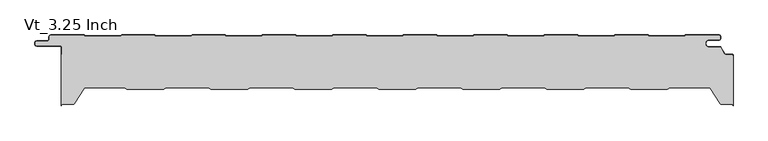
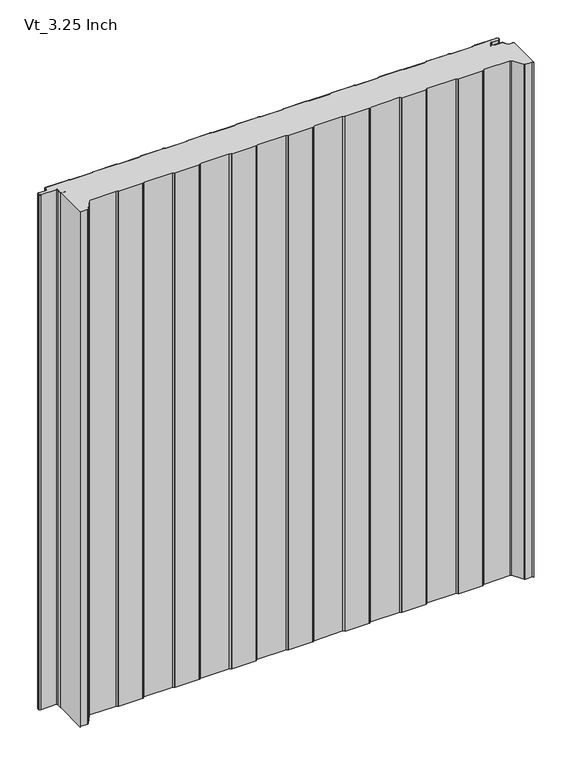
"""IFC4 building model written with IfcOpenShell, lengths in millimetres: plate geometry, KIP_R19_CP_KingSeam_Vt_Roof Panel : Vt_3.25 Inch."""

from ifc_helpers import new_model, si_unit, point, frame_2d, origin, origin_with_axes, place, context, project, spatial, polyline, circle_curve, trimmed, segment, composite_curve, outline, extrude, source, transform, mapped, element, save


def vt_3_25_inch_1afd26a9(model_context):
    return source(origin(), model_context, "Body", "SweptSolid", [
        extrude(outline(composite_curve([segment(trimmed(circle_curve(frame_2d((26.875, -81.0500006)), 1.4999999), [point((27.7535266, -82.2658093))], [point((26.875, -82.5500006))], False, "CARTESIAN"), True, "CONTINUOUS"), segment(polyline([(26.875, -82.5500006), (-26.875, -82.5500006)]), True, "CONTINUOUS"), segment(trimmed(circle_curve(frame_2d((-26.875, -81.0500005)), 1.5000001), [point((-26.875, -82.5500006))], [point((-27.7535268, -82.2658092))], False, "CARTESIAN"), True, "CONTINUOUS"), segment(polyline([(-27.7535268, -82.2658092), (-31.2132216, -79.7658809), (-95.786778, -79.7658809), (-99.2464733, -82.2658093)]), True, "CONTINUOUS"), segment(trimmed(circle_curve(frame_2d((-100.125, -81.0500006)), 1.4999999), [point((-99.2464733, -82.2658093))], [point((-100.125, -82.5500006))], False, "CARTESIAN"), True, "CONTINUOUS"), segment(polyline([(-100.125, -82.5500006), (-153.875, -82.5500006)]), True, "CONTINUOUS"), segment(trimmed(circle_curve(frame_2d((-153.875, -81.0500005)), 1.5000001), [point((-153.875, -82.5500006))], [point((-154.7535268, -82.2658092))], False, "CARTESIAN"), True, "CONTINUOUS"), segment(polyline([(-154.7535268, -82.2658092), (-158.2132216, -79.7658809), (-222.786778, -79.7658809), (-226.2464735, -82.2658092)]), True, "CONTINUOUS"), segment(trimmed(circle_curve(frame_2d((-227.125, -81.0500006)), 1.4999997), [point((-226.2464735, -82.2658092))], [point((-227.125, -82.5500004))], False, "CARTESIAN"), True, "CONTINUOUS"), segment(polyline([(-227.125, -82.5500004), (-280.875, -82.5500004)]), True, "CONTINUOUS"), segment(trimmed(circle_curve(frame_2d((-280.875, -81.0500003)), 1.5000001), [point((-280.875, -82.5500004))], [point((-281.7535268, -82.265809))], False, "CARTESIAN"), True, "CONTINUOUS"), segment(polyline([(-281.7535268, -82.265809), (-285.2132215, -79.7658807), (-349.7867784, -79.7658807), (-353.246473, -82.265809)]), True, "CONTINUOUS"), segment(trimmed(circle_curve(frame_2d((-354.125, -81.0500001)), 1.5000002), [point((-353.246473, -82.265809))], [point((-354.125, -82.5500003))], False, "CARTESIAN"), True, "CONTINUOUS"), segment(polyline([(-354.125, -82.5500003), (-407.8749999, -82.5500003)]), True, "CONTINUOUS"), segment(trimmed(circle_curve(frame_2d((-407.8749999, -81.0500002)), 1.5000002), [point((-407.8749999, -82.5500003))], [point((-408.7535268, -82.265809))], False, "CARTESIAN"), True, "CONTINUOUS"), segment(polyline([(-408.7535268, -82.265809), (-412.2132215, -79.7658807), (-471.3871492, -79.7658807)]), True, "CONTINUOUS"), segment(trimmed(circle_curve(frame_2d((-471.3871492, -82.2658809)), 2.5000002), [point((-471.3871492, -79.7658807))], [point((-473.4722192, -80.8865754))], True, "CARTESIAN"), True, "CONTINUOUS"), segment(polyline([(-473.4722192, -80.8865754), (-488.6756575, -103.8693254)]), True, "CONTINUOUS"), segment(trimmed(circle_curve(frame_2d((-490.3437134, -102.7658811)), 2.0), [point((-488.6756575, -103.8693254))], [point((-490.3437134, -104.7658811))], False, "CARTESIAN"), True, "CONTINUOUS"), segment(polyline([(-490.3437134, -104.7658811), (-505.9, -104.7658811)]), True, "CONTINUOUS"), segment(trimmed(circle_curve(frame_2d((-505.9, -106.8658809)), 2.0999999), [point((-505.9, -104.7658811))], [point((-507.9999998, -106.8658809))], True, "CARTESIAN"), True, "CONTINUOUS"), segment(polyline([(-507.9999998, -106.8658809), (-507.9999998, -29.9999994)]), True, "CONTINUOUS"), segment(trimmed(circle_curve(frame_2d((-505.9999998, -29.9999994)), 2.0), [point((-507.9999998, -29.9999994))], [point((-505.9999998, -31.9999994))], True, "CARTESIAN"), True, "CONTINUOUS"), segment(polyline([(-505.9999998, -31.9999994), (-498.4999998, -31.9999994), (-498.4999998, -31.1999994), (-505.9999998, -31.1999994)]), True, "CONTINUOUS"), segment(trimmed(circle_curve(frame_2d((-505.9999998, -29.6999994)), 1.5), [point((-505.9999998, -31.1999994))], [point((-507.4999998, -29.6999994))], False, "CARTESIAN"), True, "CONTINUOUS"), segment(polyline([(-507.4999998, -29.6999994), (-507.4999998, -18.4999994)]), True, "CONTINUOUS"), segment(trimmed(circle_curve(frame_2d((-509.4999998, -18.4999994)), 2.0), [point((-507.4999998, -18.4999994))], [point((-509.4999998, -16.4999994))], True, "CARTESIAN"), True, "CONTINUOUS"), segment(polyline([(-509.4999998, -16.4999994), (-544.9999998, -16.4999994)]), True, "CONTINUOUS"), segment(trimmed(circle_curve(frame_2d((-544.9999998, -13.9999994)), 2.5), [point((-544.9999998, -16.4999994))], [point((-547.4999998, -13.9999994))], False, "CARTESIAN"), True, "CONTINUOUS"), segment(polyline([(-547.4999998, -13.9999994), (-547.4999998, -11.9999994)]), True, "CONTINUOUS"), segment(trimmed(circle_curve(frame_2d((-544.9999998, -11.9999994)), 2.5), [point((-547.4999998, -11.9999994))], [point((-544.9999998, -9.4999994))], False, "CARTESIAN"), True, "CONTINUOUS"), segment(polyline([(-544.9999998, -9.4999994), (-529.2842001, -9.4999994)]), True, "CONTINUOUS"), segment(trimmed(circle_curve(frame_2d((-529.2842001, -6.4999994)), 3.0), [point((-529.2842001, -9.4999994))], [point((-526.2842001, -6.4999994))], True, "CARTESIAN"), True, "CONTINUOUS"), segment(polyline([(-526.2842001, -6.4999994), (-526.2842001, -2.9999994)]), True, "CONTINUOUS"), segment(trimmed(circle_curve(frame_2d((-524.2279507, -2.8161919)), 2.0644483), [point((-526.2842001, -2.9999994))], [point((-523.7842001, -0.7999994))], False, "CARTESIAN"), True, "CONTINUOUS"), segment(polyline([(-523.7842001, -0.7999994), (-474.0268775, -0.7999994)]), True, "CONTINUOUS"), segment(trimmed(circle_curve(frame_2d((-474.0268775, -3.1999994)), 2.4), [point((-474.0268775, -0.7999994))], [point((-473.0750562, -0.9968117))], False, "CARTESIAN"), True, "CONTINUOUS"), segment(polyline([(-473.0750562, -0.9968117), (-470.684957, -2.0293826)]), True, "CONTINUOUS"), segment(trimmed(circle_curve(frame_2d((-469.3762026, 1.0000006)), 3.3), [point((-470.684957, -2.0293826))], [point((-469.3762026, -2.2999994))], True, "CARTESIAN"), True, "CONTINUOUS"), segment(polyline([(-469.3762026, -2.2999994), (-420.9921975, -2.2999994)]), True, "CONTINUOUS"), segment(trimmed(circle_curve(frame_2d((-420.9921975, 1.0000006)), 3.3), [point((-420.9921975, -2.2999994))], [point((-419.6834432, -2.0293826))], True, "CARTESIAN"), True, "CONTINUOUS"), segment(polyline([(-419.6834432, -2.0293826), (-417.293344, -0.9968117)]), True, "CONTINUOUS"), segment(trimmed(circle_curve(frame_2d((-416.3415226, -3.1999994)), 2.4), [point((-417.293344, -0.9968117))], [point((-416.3415226, -0.7999994))], False, "CARTESIAN"), True, "CONTINUOUS"), segment(polyline([(-416.3415226, -0.7999994), (-367.4268775, -0.7999994)]), True, "CONTINUOUS"), segment(trimmed(circle_curve(frame_2d((-367.4268775, -3.1999994)), 2.4), [point((-367.4268775, -0.7999994))], [point((-366.4750562, -0.9968117))], False, "CARTESIAN"), True, "CONTINUOUS"), segment(polyline([(-366.4750562, -0.9968117), (-364.084957, -2.0293826)]), True, "CONTINUOUS"), segment(trimmed(circle_curve(frame_2d((-362.7762026, 1.0000006)), 3.3), [point((-364.084957, -2.0293826))], [point((-362.7762026, -2.2999994))], True, "CARTESIAN"), True, "CONTINUOUS"), segment(polyline([(-362.7762026, -2.2999994), (-314.3921975, -2.2999994)]), True, "CONTINUOUS"), segment(trimmed(circle_curve(frame_2d((-314.3921975, 1.0000006)), 3.3), [point((-314.3921975, -2.2999994))], [point((-313.0834432, -2.0293826))], True, "CARTESIAN"), True, "CONTINUOUS"), segment(polyline([(-313.0834432, -2.0293826), (-310.693344, -0.9968117)]), True, "CONTINUOUS"), segment(trimmed(circle_curve(frame_2d((-309.7415226, -3.1999994)), 2.4), [point((-310.693344, -0.9968117))], [point((-309.7415226, -0.7999994))], False, "CARTESIAN"), True, "CONTINUOUS"), segment(polyline([(-309.7415226, -0.7999994), (-260.8268775, -0.7999994)]), True, "CONTINUOUS"), segment(trimmed(circle_curve(frame_2d((-260.8268775, -3.1999994)), 2.4), [point((-260.8268775, -0.7999994))], [point((-259.8750562, -0.9968117))], False, "CARTESIAN"), True, "CONTINUOUS"), segment(polyline([(-259.8750562, -0.9968117), (-257.484957, -2.0293826)]), True, "CONTINUOUS"), segment(trimmed(circle_curve(frame_2d((-256.1762026, 1.0000006)), 3.3), [point((-257.484957, -2.0293826))], [point((-256.1762026, -2.2999994))], True, "CARTESIAN"), True, "CONTINUOUS"), segment(polyline([(-256.1762026, -2.2999994), (-207.7921975, -2.2999994)]), True, "CONTINUOUS"), segment(trimmed(circle_curve(frame_2d((-207.7921975, 1.0000006)), 3.3), [point((-207.7921975, -2.2999994))], [point((-206.4834432, -2.0293826))], True, "CARTESIAN"), True, "CONTINUOUS"), segment(polyline([(-206.4834432, -2.0293826), (-204.093344, -0.9968117)]), True, "CONTINUOUS"), segment(trimmed(circle_curve(frame_2d((-203.1415226, -3.1999994)), 2.4), [point((-204.093344, -0.9968117))], [point((-203.1415226, -0.7999994))], False, "CARTESIAN"), True, "CONTINUOUS"), segment(polyline([(-203.1415226, -0.7999994), (-154.2268775, -0.7999994)]), True, "CONTINUOUS"), segment(trimmed(circle_curve(frame_2d((-154.2268775, -3.1999994)), 2.4), [point((-154.2268775, -0.7999994))], [point((-153.2750562, -0.9968117))], False, "CARTESIAN"), True, "CONTINUOUS"), segment(polyline([(-153.2750562, -0.9968117), (-150.884957, -2.0293826)]), True, "CONTINUOUS"), segment(trimmed(circle_curve(frame_2d((-149.5762026, 1.0000006)), 3.3), [point((-150.884957, -2.0293826))], [point((-149.5762026, -2.2999994))], True, "CARTESIAN"), True, "CONTINUOUS"), segment(polyline([(-149.5762026, -2.2999994), (-101.1921975, -2.2999994)]), True, "CONTINUOUS"), segment(trimmed(circle_curve(frame_2d((-101.1921975, 1.0000006)), 3.3), [point((-101.1921975, -2.2999994))], [point((-99.8834432, -2.0293826))], True, "CARTESIAN"), True, "CONTINUOUS"), segment(polyline([(-99.8834432, -2.0293826), (-97.493344, -0.9968117)]), True, "CONTINUOUS"), segment(trimmed(circle_curve(frame_2d((-96.5415226, -3.1999994)), 2.4), [point((-97.493344, -0.9968117))], [point((-96.5415226, -0.7999994))], False, "CARTESIAN"), True, "CONTINUOUS"), segment(polyline([(-96.5415226, -0.7999994), (-47.6268775, -0.7999994)]), True, "CONTINUOUS"), segment(trimmed(circle_curve(frame_2d((-47.6268775, -3.1999994)), 2.4), [point((-47.6268775, -0.7999994))], [point((-46.6750562, -0.9968117))], False, "CARTESIAN"), True, "CONTINUOUS"), segment(polyline([(-46.6750562, -0.9968117), (-44.284957, -2.0293826)]), True, "CONTINUOUS"), segment(trimmed(circle_curve(frame_2d((-42.9762026, 1.0000006)), 3.3), [point((-44.284957, -2.0293826))], [point((-42.9762026, -2.2999994))], True, "CARTESIAN"), True, "CONTINUOUS"), segment(polyline([(-42.9762026, -2.2999994), (5.4078025, -2.2999994)]), True, "CONTINUOUS"), segment(trimmed(circle_curve(frame_2d((5.4078025, 1.0000006)), 3.3), [point((5.4078025, -2.2999994))], [point((6.7165568, -2.0293826))], True, "CARTESIAN"), True, "CONTINUOUS"), segment(polyline([(6.7165568, -2.0293826), (9.106656, -0.9968117)]), True, "CONTINUOUS"), segment(trimmed(circle_curve(frame_2d((10.0584774, -3.1999994)), 2.4), [point((9.106656, -0.9968117))], [point((10.0584774, -0.7999994))], False, "CARTESIAN"), True, "CONTINUOUS"), segment(polyline([(10.0584774, -0.7999994), (58.9731225, -0.7999994)]), True, "CONTINUOUS"), segment(trimmed(circle_curve(frame_2d((58.9731225, -3.1999994)), 2.4), [point((58.9731225, -0.7999994))], [point((59.9249438, -0.9968117))], False, "CARTESIAN"), True, "CONTINUOUS"), segment(polyline([(59.9249438, -0.9968117), (62.315043, -2.0293826)]), True, "CONTINUOUS"), segment(trimmed(circle_curve(frame_2d((63.6237974, 1.0000006)), 3.3), [point((62.315043, -2.0293826))], [point((63.6237974, -2.2999994))], True, "CARTESIAN"), True, "CONTINUOUS"), segment(polyline([(63.6237974, -2.2999994), (112.0078025, -2.2999994)]), True, "CONTINUOUS"), segment(trimmed(circle_curve(frame_2d((112.0078025, 1.0000006)), 3.3), [point((112.0078025, -2.2999994))], [point((113.3165568, -2.0293826))], True, "CARTESIAN"), True, "CONTINUOUS"), segment(polyline([(113.3165568, -2.0293826), (115.706656, -0.9968117)]), True, "CONTINUOUS"), segment(trimmed(circle_curve(frame_2d((116.6584774, -3.1999994)), 2.4), [point((115.706656, -0.9968117))], [point((116.6584774, -0.7999994))], False, "CARTESIAN"), True, "CONTINUOUS"), segment(polyline([(116.6584774, -0.7999994), (165.5731225, -0.7999994)]), True, "CONTINUOUS"), segment(trimmed(circle_curve(frame_2d((165.5731225, -3.1999994)), 2.4), [point((165.5731225, -0.7999994))], [point((166.5249438, -0.9968117))], False, "CARTESIAN"), True, "CONTINUOUS"), segment(polyline([(166.5249438, -0.9968117), (168.915043, -2.0293826)]), True, "CONTINUOUS"), segment(trimmed(circle_curve(frame_2d((170.2237974, 1.0000006)), 3.3), [point((168.915043, -2.0293826))], [point((170.2237974, -2.2999994))], True, "CARTESIAN"), True, "CONTINUOUS"), segment(polyline([(170.2237974, -2.2999994), (218.6078025, -2.2999994)]), True, "CONTINUOUS"), segment(trimmed(circle_curve(frame_2d((218.6078025, 1.0000006)), 3.3), [point((218.6078025, -2.2999994))], [point((219.9165568, -2.0293826))], True, "CARTESIAN"), True, "CONTINUOUS"), segment(polyline([(219.9165568, -2.0293826), (222.306656, -0.9968117)]), True, "CONTINUOUS"), segment(trimmed(circle_curve(frame_2d((223.2584774, -3.1999994)), 2.4), [point((222.306656, -0.9968117))], [point((223.2584774, -0.7999994))], False, "CARTESIAN"), True, "CONTINUOUS"), segment(polyline([(223.2584774, -0.7999994), (272.1731225, -0.7999994)]), True, "CONTINUOUS"), segment(trimmed(circle_curve(frame_2d((272.1731225, -3.1999994)), 2.4), [point((272.1731225, -0.7999994))], [point((273.1249438, -0.9968117))], False, "CARTESIAN"), True, "CONTINUOUS"), segment(polyline([(273.1249438, -0.9968117), (275.515043, -2.0293826)]), True, "CONTINUOUS"), segment(trimmed(circle_curve(frame_2d((276.8237974, 1.0000006)), 3.3), [point((275.515043, -2.0293826))], [point((276.8237974, -2.2999994))], True, "CARTESIAN"), True, "CONTINUOUS"), segment(polyline([(276.8237974, -2.2999994), (325.2078025, -2.2999994)]), True, "CONTINUOUS"), segment(trimmed(circle_curve(frame_2d((325.2078025, 1.0000006)), 3.3), [point((325.2078025, -2.2999994))], [point((326.5165568, -2.0293826))], True, "CARTESIAN"), True, "CONTINUOUS"), segment(polyline([(326.5165568, -2.0293826), (328.906656, -0.9968117)]), True, "CONTINUOUS"), segment(trimmed(circle_curve(frame_2d((329.8584774, -3.1999994)), 2.4), [point((328.906656, -0.9968117))], [point((329.8584774, -0.7999994))], False, "CARTESIAN"), True, "CONTINUOUS"), segment(polyline([(329.8584774, -0.7999994), (378.7731225, -0.7999994)]), True, "CONTINUOUS"), segment(trimmed(circle_curve(frame_2d((378.7731225, -3.1999994)), 2.4), [point((378.7731225, -0.7999994))], [point((379.7249438, -0.9968117))], False, "CARTESIAN"), True, "CONTINUOUS"), segment(polyline([(379.7249438, -0.9968117), (382.115043, -2.0293826)]), True, "CONTINUOUS"), segment(trimmed(circle_curve(frame_2d((383.4237974, 1.0000006)), 3.3), [point((382.115043, -2.0293826))], [point((383.4237974, -2.2999994))], True, "CARTESIAN"), True, "CONTINUOUS"), segment(polyline([(383.4237974, -2.2999994), (431.8078025, -2.2999994)]), True, "CONTINUOUS"), segment(trimmed(circle_curve(frame_2d((431.8078025, 1.0000006)), 3.3), [point((431.8078025, -2.2999994))], [point((433.1165568, -2.0293826))], True, "CARTESIAN"), True, "CONTINUOUS"), segment(polyline([(433.1165568, -2.0293826), (435.506656, -0.9968117)]), True, "CONTINUOUS"), segment(trimmed(circle_curve(frame_2d((436.4584774, -3.1999994)), 2.4), [point((435.506656, -0.9968117))], [point((436.4584774, -0.7999994))], False, "CARTESIAN"), True, "CONTINUOUS"), segment(polyline([(436.4584774, -0.7999994), (486.2157999, -0.7999994)]), True, "CONTINUOUS"), segment(trimmed(circle_curve(frame_2d((486.6595506, -2.8161919)), 2.0644483), [point((486.2157999, -0.7999994))], [point((488.7157999, -2.9999994))], False, "CARTESIAN"), True, "CONTINUOUS"), segment(polyline([(488.7157999, -2.9999994), (488.7157999, -4.9999994)]), True, "CONTINUOUS"), segment(trimmed(circle_curve(frame_2d((486.2157999, -4.9999994)), 2.5), [point((488.7157999, -4.9999994))], [point((486.2157999, -7.4999994))], False, "CARTESIAN"), True, "CONTINUOUS"), segment(polyline([(486.2157999, -7.4999994), (471.2500002, -7.4999994)]), True, "CONTINUOUS"), segment(trimmed(circle_curve(frame_2d((471.2500002, -12.2499994)), 4.75), [point((471.2500002, -7.4999994))], [point((466.5000002, -12.2499994))], True, "CARTESIAN"), True, "CONTINUOUS"), segment(polyline([(466.5000002, -12.2499994), (466.5000002, -13.7499994)]), True, "CONTINUOUS"), segment(trimmed(circle_curve(frame_2d((471.2500002, -13.7499994)), 4.75), [point((466.5000002, -13.7499994))], [point((471.2500002, -18.4999994))], True, "CARTESIAN"), True, "CONTINUOUS"), segment(polyline([(471.2500002, -18.4999994), (488.3513452, -18.4999994)]), True, "CONTINUOUS"), segment(trimmed(circle_curve(frame_2d((488.3513452, -19.4999994)), 1.0), [point((488.3513452, -18.4999994))], [point((489.2165838, -18.9986392))], False, "CARTESIAN"), True, "CONTINUOUS"), segment(polyline([(489.2165838, -18.9986392), (494.8780846, -28.7691573)]), True, "CONTINUOUS"), segment(trimmed(circle_curve(frame_2d((496.6085619, -27.7664368)), 2.0), [point((494.8780846, -28.7691573))], [point((496.6085619, -29.7664368))], True, "CARTESIAN"), True, "CONTINUOUS"), segment(polyline([(496.6085619, -29.7664368), (506.2, -29.7664368)]), True, "CONTINUOUS"), segment(trimmed(circle_curve(frame_2d((506.2, -30.7664368)), 1.0), [point((506.2, -29.7664368))], [point((507.2, -30.7664368))], False, "CARTESIAN"), True, "CONTINUOUS"), segment(polyline([(507.2, -30.7664368), (507.2, -31.9999994), (507.9999999, -31.9999994), (507.9999999, -106.8658808)]), True, "CONTINUOUS"), segment(trimmed(circle_curve(frame_2d((505.8999999, -106.8658808)), 2.1), [point((507.9999999, -106.8658808))], [point((505.8999999, -104.7658808))], True, "CARTESIAN"), True, "CONTINUOUS"), segment(polyline([(505.8999999, -104.7658808), (490.3437133, -104.7658808)]), True, "CONTINUOUS"), segment(trimmed(circle_curve(frame_2d((490.3437133, -102.7658808)), 2.0), [point((490.3437133, -104.7658808))], [point((488.6756574, -103.8693251))], False, "CARTESIAN"), True, "CONTINUOUS"), segment(polyline([(488.6756574, -103.8693251), (473.4722191, -80.8865754)]), True, "CONTINUOUS"), segment(trimmed(circle_curve(frame_2d((471.3871492, -82.2658808)), 2.5), [point((473.4722191, -80.8865754))], [point((471.3871492, -79.7658808))], True, "CARTESIAN"), True, "CONTINUOUS"), segment(polyline([(471.3871492, -79.7658808), (412.2132217, -79.7658808), (408.7535265, -82.2658088)]), True, "CONTINUOUS"), segment(trimmed(circle_curve(frame_2d((407.8749999, -81.0500001)), 1.4999999), [point((408.7535265, -82.2658088))], [point((407.8749999, -82.55))], False, "CARTESIAN"), True, "CONTINUOUS"), segment(polyline([(407.8749999, -82.55), (354.125, -82.55)]), True, "CONTINUOUS"), segment(trimmed(circle_curve(frame_2d((354.125, -81.0499999)), 1.5000001), [point((354.125, -82.55))], [point((353.2464731, -82.2658086))], False, "CARTESIAN"), True, "CONTINUOUS"), segment(polyline([(353.2464731, -82.2658086), (349.7867784, -79.7658803), (285.2132225, -79.7658803), (281.7535266, -82.2658091)]), True, "CONTINUOUS"), segment(trimmed(circle_curve(frame_2d((280.875, -81.0500005)), 1.4999999), [point((281.7535266, -82.2658091))], [point((280.875, -82.5500004))], False, "CARTESIAN"), True, "CONTINUOUS"), segment(polyline([(280.875, -82.5500004), (227.125, -82.5500004)]), True, "CONTINUOUS"), segment(trimmed(circle_curve(frame_2d((227.125, -81.0500003)), 1.5000001), [point((227.125, -82.5500004))], [point((226.2464732, -82.265809))], False, "CARTESIAN"), True, "CONTINUOUS"), segment(polyline([(226.2464732, -82.265809), (222.7867784, -79.7658807), (158.2132215, -79.7658807), (154.7535267, -82.2658089)]), True, "CONTINUOUS"), segment(trimmed(circle_curve(frame_2d((153.875, -81.0500002)), 1.5), [point((154.7535267, -82.2658089))], [point((153.875, -82.5500002))], False, "CARTESIAN"), True, "CONTINUOUS"), segment(polyline([(153.875, -82.5500002), (100.125, -82.5500003)]), True, "CONTINUOUS"), segment(trimmed(circle_curve(frame_2d((100.125, -81.0500003)), 1.4999999), [point((100.125, -82.5500003))], [point((99.2464733, -82.265809))], False, "CARTESIAN"), True, "CONTINUOUS"), segment(polyline([(99.2464733, -82.265809), (95.7867784, -79.7658809), (31.213222, -79.7658809), (27.7535266, -82.2658093)]), True, "CONTINUOUS")], self_intersect=False)), origin_with_axes(), (0.0, 0.0, 1.0), 1219.2),
        extrude(outline(composite_curve([segment(trimmed(circle_curve(frame_2d((-506.0157998, -30.0)), 2.0), [point((-506.0157998, -32.0))], [point((-508.0157998, -30.0))], False, "CARTESIAN"), True, "CONTINUOUS"), segment(polyline([(-508.0157998, -30.0), (-508.0157998, -18.5)]), True, "CONTINUOUS"), segment(trimmed(circle_curve(frame_2d((-509.5157998, -18.5)), 1.5), [point((-508.0157998, -18.5))], [point((-509.5157998, -17.0))], True, "CARTESIAN"), True, "CONTINUOUS"), segment(polyline([(-509.5157998, -17.0), (-545.0157998, -17.0)]), True, "CONTINUOUS"), segment(trimmed(circle_curve(frame_2d((-545.0157998, -14.0)), 3.0), [point((-545.0157998, -17.0))], [point((-548.0157998, -14.0))], False, "CARTESIAN"), True, "CONTINUOUS"), segment(polyline([(-548.0157998, -14.0), (-548.0157998, -12.0)]), True, "CONTINUOUS"), segment(trimmed(circle_curve(frame_2d((-545.0157998, -12.0)), 3.0), [point((-548.0157998, -12.0))], [point((-545.0157998, -9.0))], False, "CARTESIAN"), True, "CONTINUOUS"), segment(polyline([(-545.0157998, -9.0), (-529.3, -9.0)]), True, "CONTINUOUS"), segment(trimmed(circle_curve(frame_2d((-529.3, -6.5)), 2.5), [point((-529.3, -9.0))], [point((-526.8, -6.5))], True, "CARTESIAN"), True, "CONTINUOUS"), segment(polyline([(-526.8, -6.5), (-526.8, -3.0)]), True, "CONTINUOUS"), segment(trimmed(circle_curve(frame_2d((-523.8, -3.0)), 3.0), [point((-526.8, -3.0))], [point((-523.8, 0.0))], False, "CARTESIAN"), True, "CONTINUOUS"), segment(polyline([(-523.8, 0.0), (-474.0426774, 0.0)]), True, "CONTINUOUS"), segment(trimmed(circle_curve(frame_2d((-474.0426774, -3.2)), 3.2), [point((-474.0426774, 0.0))], [point((-472.7735823, -0.2624164))], False, "CARTESIAN"), True, "CONTINUOUS"), segment(polyline([(-472.7735823, -0.2624164), (-470.3834831, -1.2949872)]), True, "CONTINUOUS"), segment(trimmed(circle_curve(frame_2d((-469.3920026, 1.0)), 2.5), [point((-470.3834831, -1.2949872))], [point((-469.3920026, -1.5))], True, "CARTESIAN"), True, "CONTINUOUS"), segment(polyline([(-469.3920026, -1.5), (-421.0079974, -1.5)]), True, "CONTINUOUS"), segment(trimmed(circle_curve(frame_2d((-421.0079974, 1.0)), 2.5), [point((-421.0079974, -1.5))], [point((-420.0165169, -1.2949872))], True, "CARTESIAN"), True, "CONTINUOUS"), segment(polyline([(-420.0165169, -1.2949872), (-417.6264177, -0.2624164)]), True, "CONTINUOUS"), segment(trimmed(circle_curve(frame_2d((-416.3573226, -3.2)), 3.2), [point((-417.6264177, -0.2624164))], [point((-416.3573226, 0.0))], False, "CARTESIAN"), True, "CONTINUOUS"), segment(polyline([(-416.3573226, 0.0), (-367.4426774, 0.0)]), True, "CONTINUOUS"), segment(trimmed(circle_curve(frame_2d((-367.4426774, -3.2)), 3.2), [point((-367.4426774, 0.0))], [point((-366.1735823, -0.2624164))], False, "CARTESIAN"), True, "CONTINUOUS"), segment(polyline([(-366.1735823, -0.2624164), (-363.7834831, -1.2949872)]), True, "CONTINUOUS"), segment(trimmed(circle_curve(frame_2d((-362.7920026, 1.0)), 2.5), [point((-363.7834831, -1.2949872))], [point((-362.7920026, -1.5))], True, "CARTESIAN"), True, "CONTINUOUS"), segment(polyline([(-362.7920026, -1.5), (-314.4079974, -1.5)]), True, "CONTINUOUS"), segment(trimmed(circle_curve(frame_2d((-314.4079974, 1.0)), 2.5), [point((-314.4079974, -1.5))], [point((-313.4165169, -1.2949872))], True, "CARTESIAN"), True, "CONTINUOUS"), segment(polyline([(-313.4165169, -1.2949872), (-311.0264177, -0.2624164)]), True, "CONTINUOUS"), segment(trimmed(circle_curve(frame_2d((-309.7573226, -3.2)), 3.2), [point((-311.0264177, -0.2624164))], [point((-309.7573226, 0.0))], False, "CARTESIAN"), True, "CONTINUOUS"), segment(polyline([(-309.7573226, 0.0), (-260.8426774, 0.0)]), True, "CONTINUOUS"), segment(trimmed(circle_curve(frame_2d((-260.8426774, -3.2)), 3.2), [point((-260.8426774, 0.0))], [point((-259.5735823, -0.2624164))], False, "CARTESIAN"), True, "CONTINUOUS"), segment(polyline([(-259.5735823, -0.2624164), (-257.1834831, -1.2949872)]), True, "CONTINUOUS"), segment(trimmed(circle_curve(frame_2d((-256.1920026, 1.0)), 2.5), [point((-257.1834831, -1.2949872))], [point((-256.1920026, -1.5))], True, "CARTESIAN"), True, "CONTINUOUS"), segment(polyline([(-256.1920026, -1.5), (-207.8079974, -1.5)]), True, "CONTINUOUS"), segment(trimmed(circle_curve(frame_2d((-207.8079974, 1.0)), 2.5), [point((-207.8079974, -1.5))], [point((-206.8165169, -1.2949872))], True, "CARTESIAN"), True, "CONTINUOUS"), segment(polyline([(-206.8165169, -1.2949872), (-204.4264177, -0.2624164)]), True, "CONTINUOUS"), segment(trimmed(circle_curve(frame_2d((-203.1573226, -3.2)), 3.2), [point((-204.4264177, -0.2624164))], [point((-203.1573226, 0.0))], False, "CARTESIAN"), True, "CONTINUOUS"), segment(polyline([(-203.1573226, 0.0), (-154.2426774, 0.0)]), True, "CONTINUOUS"), segment(trimmed(circle_curve(frame_2d((-154.2426774, -3.2)), 3.2), [point((-154.2426774, 0.0))], [point((-152.9735823, -0.2624164))], False, "CARTESIAN"), True, "CONTINUOUS"), segment(polyline([(-152.9735823, -0.2624164), (-150.5834831, -1.2949872)]), True, "CONTINUOUS"), segment(trimmed(circle_curve(frame_2d((-149.5920026, 1.0)), 2.5), [point((-150.5834831, -1.2949872))], [point((-149.5920026, -1.5))], True, "CARTESIAN"), True, "CONTINUOUS"), segment(polyline([(-149.5920026, -1.5), (-101.2079974, -1.5)]), True, "CONTINUOUS"), segment(trimmed(circle_curve(frame_2d((-101.2079974, 1.0)), 2.5), [point((-101.2079974, -1.5))], [point((-100.2165169, -1.2949872))], True, "CARTESIAN"), True, "CONTINUOUS"), segment(polyline([(-100.2165169, -1.2949872), (-97.8264177, -0.2624164)]), True, "CONTINUOUS"), segment(trimmed(circle_curve(frame_2d((-96.5573226, -3.2)), 3.2), [point((-97.8264177, -0.2624164))], [point((-96.5573226, 0.0))], False, "CARTESIAN"), True, "CONTINUOUS"), segment(polyline([(-96.5573226, 0.0), (-47.6426774, 0.0)]), True, "CONTINUOUS"), segment(trimmed(circle_curve(frame_2d((-47.6426774, -3.2)), 3.2), [point((-47.6426774, 0.0))], [point((-46.3735823, -0.2624164))], False, "CARTESIAN"), True, "CONTINUOUS"), segment(polyline([(-46.3735823, -0.2624164), (-43.9834831, -1.2949872)]), True, "CONTINUOUS"), segment(trimmed(circle_curve(frame_2d((-42.9920026, 1.0)), 2.5), [point((-43.9834831, -1.2949872))], [point((-42.9920026, -1.5))], True, "CARTESIAN"), True, "CONTINUOUS"), segment(polyline([(-42.9920026, -1.5), (5.3920026, -1.5)]), True, "CONTINUOUS"), segment(trimmed(circle_curve(frame_2d((5.3920026, 1.0)), 2.5), [point((5.3920026, -1.5))], [point((6.3834831, -1.2949872))], True, "CARTESIAN"), True, "CONTINUOUS"), segment(polyline([(6.3834831, -1.2949872), (8.7735823, -0.2624164)]), True, "CONTINUOUS"), segment(trimmed(circle_curve(frame_2d((10.0426774, -3.2)), 3.2), [point((8.7735823, -0.2624164))], [point((10.0426774, 0.0))], False, "CARTESIAN"), True, "CONTINUOUS"), segment(polyline([(10.0426774, 0.0), (58.9573226, 0.0)]), True, "CONTINUOUS"), segment(trimmed(circle_curve(frame_2d((58.9573226, -3.2)), 3.2), [point((58.9573226, 0.0))], [point((60.2264177, -0.2624164))], False, "CARTESIAN"), True, "CONTINUOUS"), segment(polyline([(60.2264177, -0.2624164), (62.6165169, -1.2949872)]), True, "CONTINUOUS"), segment(trimmed(circle_curve(frame_2d((63.6079974, 1.0)), 2.5), [point((62.6165169, -1.2949872))], [point((63.6079974, -1.5))], True, "CARTESIAN"), True, "CONTINUOUS"), segment(polyline([(63.6079974, -1.5), (111.9920026, -1.5)]), True, "CONTINUOUS"), segment(trimmed(circle_curve(frame_2d((111.9920026, 1.0)), 2.5), [point((111.9920026, -1.5))], [point((112.9834831, -1.2949872))], True, "CARTESIAN"), True, "CONTINUOUS"), segment(polyline([(112.9834831, -1.2949872), (115.3735823, -0.2624164)]), True, "CONTINUOUS"), segment(trimmed(circle_curve(frame_2d((116.6426774, -3.2)), 3.2), [point((115.3735823, -0.2624164))], [point((116.6426774, 0.0))], False, "CARTESIAN"), True, "CONTINUOUS"), segment(polyline([(116.6426774, 0.0), (165.5573226, 0.0)]), True, "CONTINUOUS"), segment(trimmed(circle_curve(frame_2d((165.5573226, -3.2)), 3.2), [point((165.5573226, 0.0))], [point((166.8264177, -0.2624164))], False, "CARTESIAN"), True, "CONTINUOUS"), segment(polyline([(166.8264177, -0.2624164), (169.2165169, -1.2949872)]), True, "CONTINUOUS"), segment(trimmed(circle_curve(frame_2d((170.2079974, 1.0)), 2.5), [point((169.2165169, -1.2949872))], [point((170.2079974, -1.5))], True, "CARTESIAN"), True, "CONTINUOUS"), segment(polyline([(170.2079974, -1.5), (218.5920026, -1.5)]), True, "CONTINUOUS"), segment(trimmed(circle_curve(frame_2d((218.5920026, 1.0)), 2.5), [point((218.5920026, -1.5))], [point((219.5834831, -1.2949872))], True, "CARTESIAN"), True, "CONTINUOUS"), segment(polyline([(219.5834831, -1.2949872), (221.9735823, -0.2624164)]), True, "CONTINUOUS"), segment(trimmed(circle_curve(frame_2d((223.2426774, -3.2)), 3.2), [point((221.9735823, -0.2624164))], [point((223.2426774, 0.0))], False, "CARTESIAN"), True, "CONTINUOUS"), segment(polyline([(223.2426774, 0.0), (272.1573226, 0.0)]), True, "CONTINUOUS"), segment(trimmed(circle_curve(frame_2d((272.1573226, -3.2)), 3.2), [point((272.1573226, 0.0))], [point((273.4264177, -0.2624164))], False, "CARTESIAN"), True, "CONTINUOUS"), segment(polyline([(273.4264177, -0.2624164), (275.8165169, -1.2949872)]), True, "CONTINUOUS"), segment(trimmed(circle_curve(frame_2d((276.8079974, 1.0)), 2.5), [point((275.8165169, -1.2949872))], [point((276.8079974, -1.5))], True, "CARTESIAN"), True, "CONTINUOUS"), segment(polyline([(276.8079974, -1.5), (325.1920026, -1.5)]), True, "CONTINUOUS"), segment(trimmed(circle_curve(frame_2d((325.1920026, 1.0)), 2.5), [point((325.1920026, -1.5))], [point((326.1834831, -1.2949872))], True, "CARTESIAN"), True, "CONTINUOUS"), segment(polyline([(326.1834831, -1.2949872), (328.5735823, -0.2624164)]), True, "CONTINUOUS"), segment(trimmed(circle_curve(frame_2d((329.8426774, -3.2)), 3.2), [point((328.5735823, -0.2624164))], [point((329.8426774, 0.0))], False, "CARTESIAN"), True, "CONTINUOUS"), segment(polyline([(329.8426774, 0.0), (378.7573226, 0.0)]), True, "CONTINUOUS"), segment(trimmed(circle_curve(frame_2d((378.7573226, -3.2)), 3.2), [point((378.7573226, 0.0))], [point((380.0264177, -0.2624164))], False, "CARTESIAN"), True, "CONTINUOUS"), segment(polyline([(380.0264177, -0.2624164), (382.4165169, -1.2949872)]), True, "CONTINUOUS"), segment(trimmed(circle_curve(frame_2d((383.4079974, 1.0)), 2.5), [point((382.4165169, -1.2949872))], [point((383.4079974, -1.5))], True, "CARTESIAN"), True, "CONTINUOUS"), segment(polyline([(383.4079974, -1.5), (431.7920026, -1.5)]), True, "CONTINUOUS"), segment(trimmed(circle_curve(frame_2d((431.7920026, 1.0)), 2.5), [point((431.7920026, -1.5))], [point((432.7834831, -1.2949872))], True, "CARTESIAN"), True, "CONTINUOUS"), segment(polyline([(432.7834831, -1.2949872), (435.1735823, -0.2624164)]), True, "CONTINUOUS"), segment(trimmed(circle_curve(frame_2d((436.4426774, -3.2)), 3.2), [point((435.1735823, -0.2624164))], [point((436.4426774, 0.0))], False, "CARTESIAN"), True, "CONTINUOUS"), segment(polyline([(436.4426774, 0.0), (486.2, 0.0)]), True, "CONTINUOUS"), segment(trimmed(circle_curve(frame_2d((486.2, -3.0)), 3.0), [point((486.2, 0.0))], [point((489.2, -3.0))], False, "CARTESIAN"), True, "CONTINUOUS"), segment(polyline([(489.2, -3.0), (489.2, -5.0)]), True, "CONTINUOUS"), segment(trimmed(circle_curve(frame_2d((486.2, -5.0)), 3.0), [point((489.2, -5.0))], [point((486.2, -8.0))], False, "CARTESIAN"), True, "CONTINUOUS"), segment(polyline([(486.2, -8.0), (471.2342002, -8.0)]), True, "CONTINUOUS"), segment(trimmed(circle_curve(frame_2d((471.2342002, -12.25)), 4.25), [point((471.2342002, -8.0))], [point((466.9842002, -12.25))], True, "CARTESIAN"), True, "CONTINUOUS"), segment(polyline([(466.9842002, -12.25), (466.9842002, -13.75)]), True, "CONTINUOUS"), segment(trimmed(circle_curve(frame_2d((471.2342002, -13.75)), 4.25), [point((466.9842002, -13.75))], [point((471.2342002, -18.0))], True, "CARTESIAN"), True, "CONTINUOUS"), segment(polyline([(471.2342002, -18.0), (488.3355453, -18.0)]), True, "CONTINUOUS"), segment(trimmed(circle_curve(frame_2d((488.3355453, -19.5)), 1.5), [point((488.3355453, -18.0))], [point((489.6334032, -18.7479596))], False, "CARTESIAN"), True, "CONTINUOUS"), segment(polyline([(489.6334032, -18.7479596), (495.294904, -28.5184777)]), True, "CONTINUOUS"), segment(trimmed(circle_curve(frame_2d((496.592762, -27.7664374)), 1.5), [point((495.294904, -28.5184777))], [point((496.592762, -29.2664374))], True, "CARTESIAN"), True, "CONTINUOUS"), segment(polyline([(496.592762, -29.2664374), (506.4842001, -29.2664374)]), True, "CONTINUOUS"), segment(trimmed(circle_curve(frame_2d((506.4842001, -30.7664374)), 1.5), [point((506.4842001, -29.2664374))], [point((507.9842001, -30.7664374))], False, "CARTESIAN"), True, "CONTINUOUS"), segment(polyline([(507.9842001, -30.7664374), (507.9842001, -32.0), (507.1842001, -32.0), (507.1842001, -30.7664374)]), True, "CONTINUOUS"), segment(trimmed(circle_curve(frame_2d((506.1842001, -30.7664374)), 1.0), [point((507.1842001, -30.7664374))], [point((506.1842001, -29.7664374))], True, "CARTESIAN"), True, "CONTINUOUS"), segment(polyline([(506.1842001, -29.7664374), (496.592762, -29.7664374)]), True, "CONTINUOUS"), segment(trimmed(circle_curve(frame_2d((496.592762, -27.7664374)), 2.0), [point((496.592762, -29.7664374))], [point((494.8622847, -28.7691578))], False, "CARTESIAN"), True, "CONTINUOUS"), segment(polyline([(494.8622847, -28.7691578), (489.2007839, -18.9986398)]), True, "CONTINUOUS"), segment(trimmed(circle_curve(frame_2d((488.3355453, -19.5)), 1.0), [point((489.2007839, -18.9986398))], [point((488.3355453, -18.5))], True, "CARTESIAN"), True, "CONTINUOUS"), segment(polyline([(488.3355453, -18.5), (471.2342002, -18.5)]), True, "CONTINUOUS"), segment(trimmed(circle_curve(frame_2d((471.2342002, -13.75)), 4.75), [point((471.2342002, -18.5))], [point((466.4842002, -13.75))], False, "CARTESIAN"), True, "CONTINUOUS"), segment(polyline([(466.4842002, -13.75), (466.4842002, -12.25)]), True, "CONTINUOUS"), segment(trimmed(circle_curve(frame_2d((471.2342002, -12.25)), 4.75), [point((466.4842002, -12.25))], [point((471.2342002, -7.5))], False, "CARTESIAN"), True, "CONTINUOUS"), segment(polyline([(471.2342002, -7.5), (486.2, -7.5)]), True, "CONTINUOUS"), segment(trimmed(circle_curve(frame_2d((486.2, -5.0)), 2.5), [point((486.2, -7.5))], [point((488.7, -5.0))], True, "CARTESIAN"), True, "CONTINUOUS"), segment(polyline([(488.7, -5.0), (488.7, -3.0)]), True, "CONTINUOUS"), segment(trimmed(circle_curve(frame_2d((486.6437506, -2.8161925)), 2.0644483), [point((488.7, -3.0))], [point((486.2, -0.8))], True, "CARTESIAN"), True, "CONTINUOUS"), segment(polyline([(486.2, -0.8), (436.4426774, -0.8)]), True, "CONTINUOUS"), segment(trimmed(circle_curve(frame_2d((436.4426774, -3.2)), 2.4), [point((436.4426774, -0.8))], [point((435.4908561, -0.9968123))], True, "CARTESIAN"), True, "CONTINUOUS"), segment(polyline([(435.4908561, -0.9968123), (433.1007569, -2.0293831)]), True, "CONTINUOUS"), segment(trimmed(circle_curve(frame_2d((431.7920026, 1.0)), 3.3), [point((433.1007569, -2.0293831))], [point((431.7920026, -2.3))], False, "CARTESIAN"), True, "CONTINUOUS"), segment(polyline([(431.7920026, -2.3), (383.4079974, -2.3)]), True, "CONTINUOUS"), segment(trimmed(circle_curve(frame_2d((383.4079974, 1.0)), 3.3), [point((383.4079974, -2.3))], [point((382.0992431, -2.0293831))], False, "CARTESIAN"), True, "CONTINUOUS"), segment(polyline([(382.0992431, -2.0293831), (379.7091439, -0.9968123)]), True, "CONTINUOUS"), segment(trimmed(circle_curve(frame_2d((378.7573226, -3.2)), 2.4), [point((379.7091439, -0.9968123))], [point((378.7573226, -0.8))], True, "CARTESIAN"), True, "CONTINUOUS"), segment(polyline([(378.7573226, -0.8), (329.8426774, -0.8)]), True, "CONTINUOUS"), segment(trimmed(circle_curve(frame_2d((329.8426774, -3.2)), 2.4), [point((329.8426774, -0.8))], [point((328.8908561, -0.9968123))], True, "CARTESIAN"), True, "CONTINUOUS"), segment(polyline([(328.8908561, -0.9968123), (326.5007569, -2.0293831)]), True, "CONTINUOUS"), segment(trimmed(circle_curve(frame_2d((325.1920026, 1.0)), 3.3), [point((326.5007569, -2.0293831))], [point((325.1920026, -2.3))], False, "CARTESIAN"), True, "CONTINUOUS"), segment(polyline([(325.1920026, -2.3), (276.8079974, -2.3)]), True, "CONTINUOUS"), segment(trimmed(circle_curve(frame_2d((276.8079974, 1.0)), 3.3), [point((276.8079974, -2.3))], [point((275.4992431, -2.0293831))], False, "CARTESIAN"), True, "CONTINUOUS"), segment(polyline([(275.4992431, -2.0293831), (273.1091439, -0.9968123)]), True, "CONTINUOUS"), segment(trimmed(circle_curve(frame_2d((272.1573226, -3.2)), 2.4), [point((273.1091439, -0.9968123))], [point((272.1573226, -0.8))], True, "CARTESIAN"), True, "CONTINUOUS"), segment(polyline([(272.1573226, -0.8), (223.2426774, -0.8)]), True, "CONTINUOUS"), segment(trimmed(circle_curve(frame_2d((223.2426774, -3.2)), 2.4), [point((223.2426774, -0.8))], [point((222.2908561, -0.9968123))], True, "CARTESIAN"), True, "CONTINUOUS"), segment(polyline([(222.2908561, -0.9968123), (219.9007569, -2.0293831)]), True, "CONTINUOUS"), segment(trimmed(circle_curve(frame_2d((218.5920026, 1.0)), 3.3), [point((219.9007569, -2.0293831))], [point((218.5920026, -2.3))], False, "CARTESIAN"), True, "CONTINUOUS"), segment(polyline([(218.5920026, -2.3), (170.2079974, -2.3)]), True, "CONTINUOUS"), segment(trimmed(circle_curve(frame_2d((170.2079974, 1.0)), 3.3), [point((170.2079974, -2.3))], [point((168.8992431, -2.0293831))], False, "CARTESIAN"), True, "CONTINUOUS"), segment(polyline([(168.8992431, -2.0293831), (166.5091439, -0.9968123)]), True, "CONTINUOUS"), segment(trimmed(circle_curve(frame_2d((165.5573226, -3.2)), 2.4), [point((166.5091439, -0.9968123))], [point((165.5573226, -0.8))], True, "CARTESIAN"), True, "CONTINUOUS"), segment(polyline([(165.5573226, -0.8), (116.6426774, -0.8)]), True, "CONTINUOUS"), segment(trimmed(circle_curve(frame_2d((116.6426774, -3.2)), 2.4), [point((116.6426774, -0.8))], [point((115.6908561, -0.9968123))], True, "CARTESIAN"), True, "CONTINUOUS"), segment(polyline([(115.6908561, -0.9968123), (113.3007569, -2.0293831)]), True, "CONTINUOUS"), segment(trimmed(circle_curve(frame_2d((111.9920026, 1.0)), 3.3), [point((113.3007569, -2.0293831))], [point((111.9920026, -2.3))], False, "CARTESIAN"), True, "CONTINUOUS"), segment(polyline([(111.9920026, -2.3), (63.6079974, -2.3)]), True, "CONTINUOUS"), segment(trimmed(circle_curve(frame_2d((63.6079974, 1.0)), 3.3), [point((63.6079974, -2.3))], [point((62.2992431, -2.0293831))], False, "CARTESIAN"), True, "CONTINUOUS"), segment(polyline([(62.2992431, -2.0293831), (59.9091439, -0.9968123)]), True, "CONTINUOUS"), segment(trimmed(circle_curve(frame_2d((58.9573226, -3.2)), 2.4), [point((59.9091439, -0.9968123))], [point((58.9573226, -0.8))], True, "CARTESIAN"), True, "CONTINUOUS"), segment(polyline([(58.9573226, -0.8), (10.0426774, -0.8)]), True, "CONTINUOUS"), segment(trimmed(circle_curve(frame_2d((10.0426774, -3.2)), 2.4), [point((10.0426774, -0.8))], [point((9.0908561, -0.9968123))], True, "CARTESIAN"), True, "CONTINUOUS"), segment(polyline([(9.0908561, -0.9968123), (6.7007569, -2.0293831)]), True, "CONTINUOUS"), segment(trimmed(circle_curve(frame_2d((5.3920026, 1.0)), 3.3), [point((6.7007569, -2.0293831))], [point((5.3920026, -2.3))], False, "CARTESIAN"), True, "CONTINUOUS"), segment(polyline([(5.3920026, -2.3), (-42.9920026, -2.3)]), True, "CONTINUOUS"), segment(trimmed(circle_curve(frame_2d((-42.9920026, 1.0)), 3.3), [point((-42.9920026, -2.3))], [point((-44.3007569, -2.0293831))], False, "CARTESIAN"), True, "CONTINUOUS"), segment(polyline([(-44.3007569, -2.0293831), (-46.6908561, -0.9968123)]), True, "CONTINUOUS"), segment(trimmed(circle_curve(frame_2d((-47.6426774, -3.2)), 2.4), [point((-46.6908561, -0.9968123))], [point((-47.6426774, -0.8))], True, "CARTESIAN"), True, "CONTINUOUS"), segment(polyline([(-47.6426774, -0.8), (-96.5573226, -0.8)]), True, "CONTINUOUS"), segment(trimmed(circle_curve(frame_2d((-96.5573226, -3.2)), 2.4), [point((-96.5573226, -0.8))], [point((-97.5091439, -0.9968123))], True, "CARTESIAN"), True, "CONTINUOUS"), segment(polyline([(-97.5091439, -0.9968123), (-99.8992431, -2.0293831)]), True, "CONTINUOUS"), segment(trimmed(circle_curve(frame_2d((-101.2079974, 1.0)), 3.3), [point((-99.8992431, -2.0293831))], [point((-101.2079974, -2.3))], False, "CARTESIAN"), True, "CONTINUOUS"), segment(polyline([(-101.2079974, -2.3), (-149.5920026, -2.3)]), True, "CONTINUOUS"), segment(trimmed(circle_curve(frame_2d((-149.5920026, 1.0)), 3.3), [point((-149.5920026, -2.3))], [point((-150.9007569, -2.0293831))], False, "CARTESIAN"), True, "CONTINUOUS"), segment(polyline([(-150.9007569, -2.0293831), (-153.2908561, -0.9968123)]), True, "CONTINUOUS"), segment(trimmed(circle_curve(frame_2d((-154.2426774, -3.2)), 2.4), [point((-153.2908561, -0.9968123))], [point((-154.2426774, -0.8))], True, "CARTESIAN"), True, "CONTINUOUS"), segment(polyline([(-154.2426774, -0.8), (-203.1573226, -0.8)]), True, "CONTINUOUS"), segment(trimmed(circle_curve(frame_2d((-203.1573226, -3.2)), 2.4), [point((-203.1573226, -0.8))], [point((-204.1091439, -0.9968123))], True, "CARTESIAN"), True, "CONTINUOUS"), segment(polyline([(-204.1091439, -0.9968123), (-206.4992431, -2.0293831)]), True, "CONTINUOUS"), segment(trimmed(circle_curve(frame_2d((-207.8079974, 1.0)), 3.3), [point((-206.4992431, -2.0293831))], [point((-207.8079974, -2.3))], False, "CARTESIAN"), True, "CONTINUOUS"), segment(polyline([(-207.8079974, -2.3), (-256.1920026, -2.3)]), True, "CONTINUOUS"), segment(trimmed(circle_curve(frame_2d((-256.1920026, 1.0)), 3.3), [point((-256.1920026, -2.3))], [point((-257.5007569, -2.0293831))], False, "CARTESIAN"), True, "CONTINUOUS"), segment(polyline([(-257.5007569, -2.0293831), (-259.8908561, -0.9968123)]), True, "CONTINUOUS"), segment(trimmed(circle_curve(frame_2d((-260.8426774, -3.2)), 2.4), [point((-259.8908561, -0.9968123))], [point((-260.8426774, -0.8))], True, "CARTESIAN"), True, "CONTINUOUS"), segment(polyline([(-260.8426774, -0.8), (-309.7573226, -0.8)]), True, "CONTINUOUS"), segment(trimmed(circle_curve(frame_2d((-309.7573226, -3.2)), 2.4), [point((-309.7573226, -0.8))], [point((-310.7091439, -0.9968123))], True, "CARTESIAN"), True, "CONTINUOUS"), segment(polyline([(-310.7091439, -0.9968123), (-313.0992431, -2.0293831)]), True, "CONTINUOUS"), segment(trimmed(circle_curve(frame_2d((-314.4079974, 1.0)), 3.3), [point((-313.0992431, -2.0293831))], [point((-314.4079974, -2.3))], False, "CARTESIAN"), True, "CONTINUOUS"), segment(polyline([(-314.4079974, -2.3), (-362.7920026, -2.3)]), True, "CONTINUOUS"), segment(trimmed(circle_curve(frame_2d((-362.7920026, 1.0)), 3.3), [point((-362.7920026, -2.3))], [point((-364.1007569, -2.0293831))], False, "CARTESIAN"), True, "CONTINUOUS"), segment(polyline([(-364.1007569, -2.0293831), (-366.4908561, -0.9968123)]), True, "CONTINUOUS"), segment(trimmed(circle_curve(frame_2d((-367.4426774, -3.2)), 2.4), [point((-366.4908561, -0.9968123))], [point((-367.4426774, -0.8))], True, "CARTESIAN"), True, "CONTINUOUS"), segment(polyline([(-367.4426774, -0.8), (-416.3573226, -0.8)]), True, "CONTINUOUS"), segment(trimmed(circle_curve(frame_2d((-416.3573226, -3.2)), 2.4), [point((-416.3573226, -0.8))], [point((-417.3091439, -0.9968123))], True, "CARTESIAN"), True, "CONTINUOUS"), segment(polyline([(-417.3091439, -0.9968123), (-419.6992431, -2.0293831)]), True, "CONTINUOUS"), segment(trimmed(circle_curve(frame_2d((-421.0079974, 1.0)), 3.3), [point((-419.6992431, -2.0293831))], [point((-421.0079974, -2.3))], False, "CARTESIAN"), True, "CONTINUOUS"), segment(polyline([(-421.0079974, -2.3), (-469.3920026, -2.3)]), True, "CONTINUOUS"), segment(trimmed(circle_curve(frame_2d((-469.3920026, 1.0)), 3.3), [point((-469.3920026, -2.3))], [point((-470.7007569, -2.0293831))], False, "CARTESIAN"), True, "CONTINUOUS"), segment(polyline([(-470.7007569, -2.0293831), (-473.0908561, -0.9968123)]), True, "CONTINUOUS"), segment(trimmed(circle_curve(frame_2d((-474.0426774, -3.2)), 2.4), [point((-473.0908561, -0.9968123))], [point((-474.0426774, -0.8))], True, "CARTESIAN"), True, "CONTINUOUS"), segment(polyline([(-474.0426774, -0.8), (-523.8, -0.8)]), True, "CONTINUOUS"), segment(trimmed(circle_curve(frame_2d((-524.2437506, -2.8161925)), 2.0644483), [point((-523.8, -0.8))], [point((-526.3, -3.0))], True, "CARTESIAN"), True, "CONTINUOUS"), segment(polyline([(-526.3, -3.0), (-526.3, -6.5)]), True, "CONTINUOUS"), segment(trimmed(circle_curve(frame_2d((-529.3, -6.5)), 3.0), [point((-526.3, -6.5))], [point((-529.3, -9.5))], False, "CARTESIAN"), True, "CONTINUOUS"), segment(polyline([(-529.3, -9.5), (-545.0157998, -9.5)]), True, "CONTINUOUS"), segment(trimmed(circle_curve(frame_2d((-545.0157998, -12.0)), 2.5), [point((-545.0157998, -9.5))], [point((-547.5157998, -12.0))], True, "CARTESIAN"), True, "CONTINUOUS"), segment(polyline([(-547.5157998, -12.0), (-547.5157998, -14.0)]), True, "CONTINUOUS"), segment(trimmed(circle_curve(frame_2d((-545.0157998, -14.0)), 2.5), [point((-547.5157998, -14.0))], [point((-545.0157998, -16.5))], True, "CARTESIAN"), True, "CONTINUOUS"), segment(polyline([(-545.0157998, -16.5), (-509.5157998, -16.5)]), True, "CONTINUOUS"), segment(trimmed(circle_curve(frame_2d((-509.5157998, -18.5)), 2.0), [point((-509.5157998, -16.5))], [point((-507.5157998, -18.5))], False, "CARTESIAN"), True, "CONTINUOUS"), segment(polyline([(-507.5157998, -18.5), (-507.5157998, -29.7)]), True, "CONTINUOUS"), segment(trimmed(circle_curve(frame_2d((-506.0157998, -29.7)), 1.5), [point((-507.5157998, -29.7))], [point((-506.0157998, -31.2))], True, "CARTESIAN"), True, "CONTINUOUS"), segment(polyline([(-506.0157998, -31.2), (-498.5157998, -31.2), (-498.5157998, -32.0), (-506.0157998, -32.0)]), True, "CONTINUOUS")], self_intersect=False)), origin_with_axes(), (0.0, 0.0, 1.0), 1219.2),
    ])


if __name__ == "__main__":
    model = new_model("IFC4")
    model_context = context("Model", 3, world=origin())
    ifc_project = project(units=[si_unit("LENGTHUNIT", "METRE", prefix="MILLI")], contexts=[model_context])
    site = spatial("IfcSite", under=ifc_project)
    building = spatial("IfcBuilding", under=site)
    placement = place(None, origin())
    vt_3_25_inch_shape = vt_3_25_inch_1afd26a9(model_context)
    element("IfcPlate", 1, ObjectType="KIP_R19_CP_KingSeam_Vt_Roof Panel : Vt_3.25 Inch", at=placement, inside=building, context=model_context, shape_type="MappedRepresentation", body=[
        mapped(vt_3_25_inch_shape, transform((0.0, 0.0, 0.0), x_axis=(1.0, 0.0, 0.0), y_axis=(0.0, 1.0, 0.0), z_axis=(0.0, 0.0, 1.0))),
    ])
    save(model, "model.ifc")
